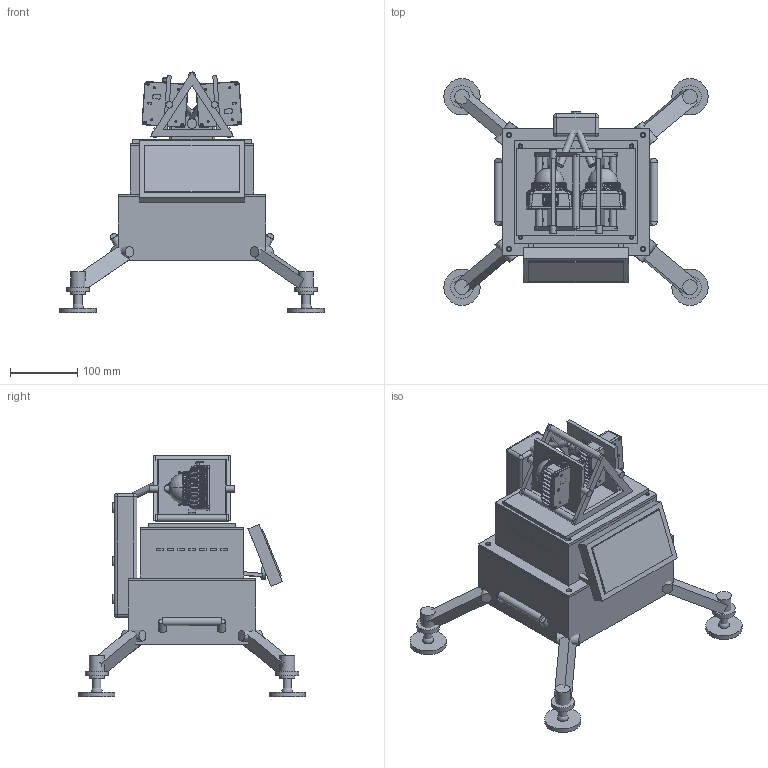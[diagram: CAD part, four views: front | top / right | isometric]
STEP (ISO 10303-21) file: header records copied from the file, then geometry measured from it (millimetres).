
FILE_DESCRIPTION(('FreeCAD Model'),'2;1');
FILE_NAME('Open CASCADE Shape Model','2026-09-04T10:16:30',('Author'),( ''),'Open CASCADE STEP processor 7.8','FreeCAD','Unknown');
FILE_SCHEMA(('AUTOMOTIVE_DESIGN { 1 0 10303 214 1 1 1 1 }'));
Length unit declared in the file: millimetre
Products named in the file (72): APEX_Dual_MID360_Field_Scanner; Battery enclosure base — 3 mm walls, M4 insert posts; Battery service lid — M4 normal clearance / counterbore; CSBattery LFP24V10 — 25.6 V 10 Ah 256 Wh; Stainless battery retention strap; Stainless battery retention strap001; Vented compute enclosure — M3 insert posts; Compute lid / sensor-head hardpoint plate; Seeed reComputer J4012 envelope; reComputer heat-sink fin; reComputer heat-sink fin001; reComputer heat-sink fin002; reComputer heat-sink fin003; reComputer heat-sink fin004; reComputer heat-sink fin005; reComputer heat-sink fin006; reComputer heat-sink fin007; reComputer heat-sink fin008; Noctua NF-A6x25 5V PWM exhaust fan; 85×50 mm carrier PCB reserved for fuse, EMI filter and connectors; Vicor DCM3623T36G13C2T00 regulated DC-DC module; 6 mm 6061 sensor-head deck; Front triangular A-frame gusset; Rear triangular A-frame gusset; A-frame crossmember; A-frame crossmember001; A-frame crossmember002; Right 86° indexed MID-360 mounting plate; Livox MID-360 right — official STEP; Right plate pivot shaft; Right indexed tilt link; Left 86° indexed MID-360 mounting plate; Livox MID-360 left — official STEP; Left plate pivot shaft; Left indexed tilt link; Recessed 5.5 inch display bezel — 22° lean; Waveshare 5.5 inch HDMI AMOLED module; Display support stay; Display support stay001; Illuminated guarded scan start / stop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
Assembly tree (71 placements, depth 2):
  APEX_Dual_MID360_Field_Scanner
    Battery enclosure base — 3 mm walls, M4 insert posts
    Battery service lid — M4 normal clearance / counterbore
    CSBattery LFP24V10 — 25.6 V 10 Ah 256 Wh
    Stainless battery retention strap
    Stainless battery retention strap001
    Vented compute enclosure — M3 insert posts
    Compute lid / sensor-head hardpoint plate
    Seeed reComputer J4012 envelope
    reComputer heat-sink fin
    reComputer heat-sink fin001
    reComputer heat-sink fin002
    reComputer heat-sink fin003
    reComputer heat-sink fin004
    reComputer heat-sink fin005
    reComputer heat-sink fin006
    reComputer heat-sink fin007
    reComputer heat-sink fin008
    Noctua NF-A6x25 5V PWM exhaust fan
    85×50 mm carrier PCB reserved for fuse, EMI filter and connectors
    Vicor DCM3623T36G13C2T00 regulated DC-DC module
    6 mm 6061 sensor-head deck
    Front triangular A-frame gusset
    Rear triangular A-frame gusset
    A-frame crossmember
    A-frame crossmember001
    A-frame crossmember002
    Right 86° indexed MID-360 mounting plate
    Livox MID-360 right — official STEP
    Right plate pivot shaft
    Right indexed tilt link
    Left 86° indexed MID-360 mounting plate
    Livox MID-360 left — official STEP
    Left plate pivot shaft
    Left indexed tilt link
    Recessed 5.5 inch display bezel — 22° lean
    Waveshare 5.5 inch HDMI AMOLED module
    Display support stay
    Display support stay001
    Illuminated guarded scan start / stop
    Removable rear cable spine — M3 heat-set inserts
    IP67 cable gland
    IP67 cable gland001
    IP67 cable gland002
    Protected LiDAR cable guide
    Protected LiDAR cable guide001
    Outrigger hinge and 10 mm pin
    25×16 mm hinged spider outrigger
    M12 captive leveling sleeve
    M12×1.75 leveling screw, 40 mm travel
    Glove-friendly leveling knob
    Ø54 articulating rubber ground pad
    Outrigger hinge and 10 mm pin001
    25×16 mm hinged spider outrigger001
    M12 captive leveling sleeve001
    M12×1.75 leveling screw, 40 mm travel001
    Glove-friendly leveling knob001
    Ø54 articulating rubber ground pad001
    Outrigger hinge and 10 mm pin002
    25×16 mm hinged spider outrigger002
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Bounding box: 394 x 338 x 360 mm (x, y, z)
Volume: 5403525.3 mm3; surface area: 1234832.4 mm2
Topology: 83 solids, 115 shells, 4003 faces, 10401 edges, 6682 vertices
Faces by surface type: plane 1352, cylinder 1277, bspline 636, cone 384, torus 274, extrusion 48, sphere 32
Full cylindrical faces by diameter (mm): 3.4 x12, 4 x8, 4.5 x8, 5.6 x4, 6.5 x4, 8 x4, 10 x7, 12 x10, 14 x5, 16 x4, 18 x1, 22 x4, 34 x4, 54 x4
Entity records: 197375 total; most frequent: CARTESIAN_POINT 103576, ORIENTED_EDGE 20476, DIRECTION 17663, EDGE_CURVE 10299, AXIS2_PLACEMENT_3D 6735, VERTEX_POINT 6682, FACE_BOUND 4299, EDGE_LOOP 4299
